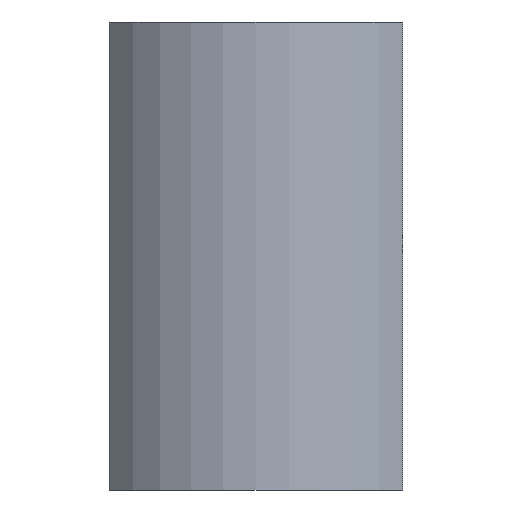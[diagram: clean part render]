
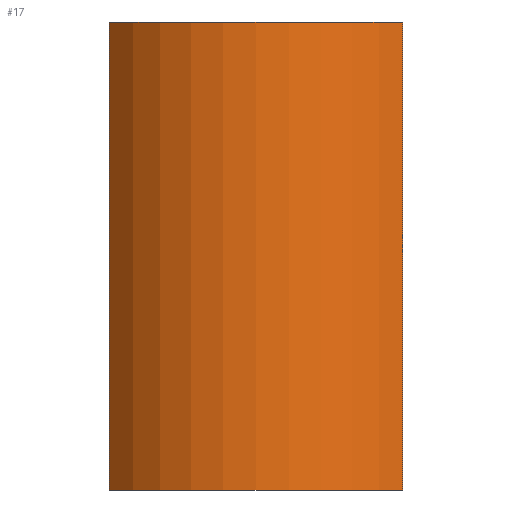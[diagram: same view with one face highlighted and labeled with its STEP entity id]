
A CAD part, left-side view. The second image highlights one B-rep face of the part: STEP entity #17.
In plain terms, the highlighted cylindrical face has radius 45 mm (diameter 90 mm), a partial arc.
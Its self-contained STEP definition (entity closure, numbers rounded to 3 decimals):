
#17 = ADVANCED_FACE('',(#18),#33,.T.);
#18 = FACE_BOUND('',#19,.F.);
#19 = EDGE_LOOP('',(#20,#56,#82,#111));
#20 = ORIENTED_EDGE('',*,*,#21,.F.);
#21 = EDGE_CURVE('',#22,#24,#26,.T.);
#22 = VERTEX_POINT('',#23);
#23 = CARTESIAN_POINT('',(-28.925,34.472,0.));
#24 = VERTEX_POINT('',#25);
#25 = CARTESIAN_POINT('',(-28.925,-34.472,0.));
#26 = SURFACE_CURVE('',#27,(#32,#44),.PCURVE_S1.);
#27 = CIRCLE('',#28,45.);
#28 = AXIS2_PLACEMENT_3D('',#29,#30,#31);
#29 = CARTESIAN_POINT('',(0.,0.,0.));
#30 = DIRECTION('',(0.,0.,1.));
#31 = DIRECTION('',(1.,0.,0.));
#32 = PCURVE('',#33,#38);
#33 = CYLINDRICAL_SURFACE('',#34,45.);
#34 = AXIS2_PLACEMENT_3D('',#35,#36,#37);
#35 = CARTESIAN_POINT('',(0.,0.,0.));
#36 = DIRECTION('',(-0.,-0.,-1.));
#37 = DIRECTION('',(1.,0.,0.));
#38 = DEFINITIONAL_REPRESENTATION('',(#39),#43);
#39 = LINE('',#40,#41);
#40 = CARTESIAN_POINT('',(-0.,0.));
#41 = VECTOR('',#42,1.);
#42 = DIRECTION('',(-1.,0.));
#43 = ( GEOMETRIC_REPRESENTATION_CONTEXT(2) 
PARAMETRIC_REPRESENTATION_CONTEXT() REPRESENTATION_CONTEXT('2D SPACE',''
  ) );
#44 = PCURVE('',#45,#50);
#45 = PLANE('',#46);
#46 = AXIS2_PLACEMENT_3D('',#47,#48,#49);
#47 = CARTESIAN_POINT('',(0.,0.,0.));
#48 = DIRECTION('',(0.,0.,1.));
#49 = DIRECTION('',(1.,0.,-0.));
#50 = DEFINITIONAL_REPRESENTATION('',(#51),#55);
#51 = CIRCLE('',#52,45.);
#52 = AXIS2_PLACEMENT_2D('',#53,#54);
#53 = CARTESIAN_POINT('',(0.,0.));
#54 = DIRECTION('',(1.,0.));
#55 = ( GEOMETRIC_REPRESENTATION_CONTEXT(2) 
PARAMETRIC_REPRESENTATION_CONTEXT() REPRESENTATION_CONTEXT('2D SPACE',''
  ) );
#56 = ORIENTED_EDGE('',*,*,#57,.F.);
#57 = EDGE_CURVE('',#58,#22,#60,.T.);
#58 = VERTEX_POINT('',#59);
#59 = CARTESIAN_POINT('',(-28.925,34.472,110.));
#60 = SURFACE_CURVE('',#61,(#65,#71),.PCURVE_S1.);
#61 = LINE('',#62,#63);
#62 = CARTESIAN_POINT('',(-28.925,34.472,0.));
#63 = VECTOR('',#64,1.);
#64 = DIRECTION('',(-0.,-0.,-1.));
#65 = PCURVE('',#33,#66);
#66 = DEFINITIONAL_REPRESENTATION('',(#67),#70);
#67 = B_SPLINE_CURVE_WITH_KNOTS('',1,(#68,#69),.UNSPECIFIED.,.F.,.F.,(2,
    2),(-110.,0.),.PIECEWISE_BEZIER_KNOTS.);
#68 = CARTESIAN_POINT('',(-2.269,-110.));
#69 = CARTESIAN_POINT('',(-2.269,0.));
#70 = ( GEOMETRIC_REPRESENTATION_CONTEXT(2) 
PARAMETRIC_REPRESENTATION_CONTEXT() REPRESENTATION_CONTEXT('2D SPACE',''
  ) );
#71 = PCURVE('',#72,#77);
#72 = PLANE('',#73);
#73 = AXIS2_PLACEMENT_3D('',#74,#75,#76);
#74 = CARTESIAN_POINT('',(0.,0.,0.));
#75 = DIRECTION('',(-0.766,-0.643,0.));
#76 = DIRECTION('',(-0.643,0.766,0.));
#77 = DEFINITIONAL_REPRESENTATION('',(#78),#81);
#78 = B_SPLINE_CURVE_WITH_KNOTS('',1,(#79,#80),.UNSPECIFIED.,.F.,.F.,(2,
    2),(-110.,0.),.PIECEWISE_BEZIER_KNOTS.);
#79 = CARTESIAN_POINT('',(45.,-110.));
#80 = CARTESIAN_POINT('',(45.,0.));
#81 = ( GEOMETRIC_REPRESENTATION_CONTEXT(2) 
PARAMETRIC_REPRESENTATION_CONTEXT() REPRESENTATION_CONTEXT('2D SPACE',''
  ) );
#82 = ORIENTED_EDGE('',*,*,#83,.T.);
#83 = EDGE_CURVE('',#58,#84,#86,.T.);
#84 = VERTEX_POINT('',#85);
#85 = CARTESIAN_POINT('',(-28.925,-34.472,110.));
#86 = SURFACE_CURVE('',#87,(#92,#99),.PCURVE_S1.);
#87 = CIRCLE('',#88,45.);
#88 = AXIS2_PLACEMENT_3D('',#89,#90,#91);
#89 = CARTESIAN_POINT('',(0.,0.,110.));
#90 = DIRECTION('',(0.,0.,1.));
#91 = DIRECTION('',(1.,0.,0.));
#92 = PCURVE('',#33,#93);
#93 = DEFINITIONAL_REPRESENTATION('',(#94),#98);
#94 = LINE('',#95,#96);
#95 = CARTESIAN_POINT('',(-0.,-110.));
#96 = VECTOR('',#97,1.);
#97 = DIRECTION('',(-1.,0.));
#98 = ( GEOMETRIC_REPRESENTATION_CONTEXT(2) 
PARAMETRIC_REPRESENTATION_CONTEXT() REPRESENTATION_CONTEXT('2D SPACE',''
  ) );
#99 = PCURVE('',#100,#105);
#100 = PLANE('',#101);
#101 = AXIS2_PLACEMENT_3D('',#102,#103,#104);
#102 = CARTESIAN_POINT('',(0.,0.,110.));
#103 = DIRECTION('',(0.,0.,1.));
#104 = DIRECTION('',(1.,0.,-0.));
#105 = DEFINITIONAL_REPRESENTATION('',(#106),#110);
#106 = CIRCLE('',#107,45.);
#107 = AXIS2_PLACEMENT_2D('',#108,#109);
#108 = CARTESIAN_POINT('',(0.,0.));
#109 = DIRECTION('',(1.,0.));
#110 = ( GEOMETRIC_REPRESENTATION_CONTEXT(2) 
PARAMETRIC_REPRESENTATION_CONTEXT() REPRESENTATION_CONTEXT('2D SPACE',''
  ) );
#111 = ORIENTED_EDGE('',*,*,#112,.T.);
#112 = EDGE_CURVE('',#84,#24,#113,.T.);
#113 = SURFACE_CURVE('',#114,(#118,#124),.PCURVE_S1.);
#114 = LINE('',#115,#116);
#115 = CARTESIAN_POINT('',(-28.925,-34.472,0.));
#116 = VECTOR('',#117,1.);
#117 = DIRECTION('',(-0.,-0.,-1.));
#118 = PCURVE('',#33,#119);
#119 = DEFINITIONAL_REPRESENTATION('',(#120),#123);
#120 = B_SPLINE_CURVE_WITH_KNOTS('',1,(#121,#122),.UNSPECIFIED.,.F.,.F.,
  (2,2),(-110.,0.),.PIECEWISE_BEZIER_KNOTS.);
#121 = CARTESIAN_POINT('',(-4.014,-110.));
#122 = CARTESIAN_POINT('',(-4.014,0.));
#123 = ( GEOMETRIC_REPRESENTATION_CONTEXT(2) 
PARAMETRIC_REPRESENTATION_CONTEXT() REPRESENTATION_CONTEXT('2D SPACE',''
  ) );
#124 = PCURVE('',#125,#130);
#125 = PLANE('',#126);
#126 = AXIS2_PLACEMENT_3D('',#127,#128,#129);
#127 = CARTESIAN_POINT('',(-38.567,-45.963,0.));
#128 = DIRECTION('',(-0.766,0.643,0.));
#129 = DIRECTION('',(0.643,0.766,0.));
#130 = DEFINITIONAL_REPRESENTATION('',(#131),#134);
#131 = B_SPLINE_CURVE_WITH_KNOTS('',1,(#132,#133),.UNSPECIFIED.,.F.,.F.,
  (2,2),(-110.,0.),.PIECEWISE_BEZIER_KNOTS.);
#132 = CARTESIAN_POINT('',(15.,-110.));
#133 = CARTESIAN_POINT('',(15.,0.));
#134 = ( GEOMETRIC_REPRESENTATION_CONTEXT(2) 
PARAMETRIC_REPRESENTATION_CONTEXT() REPRESENTATION_CONTEXT('2D SPACE',''
  ) );
